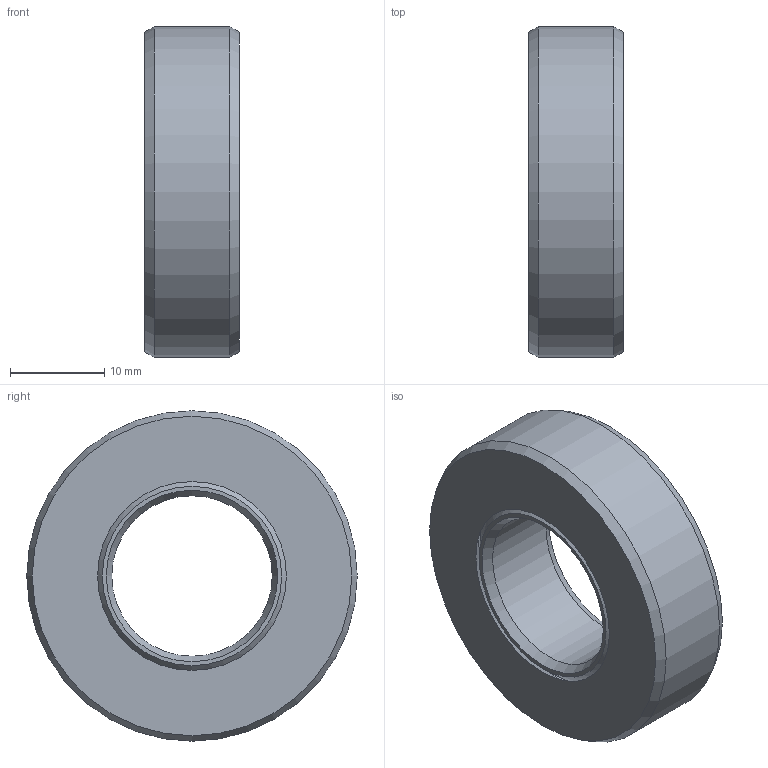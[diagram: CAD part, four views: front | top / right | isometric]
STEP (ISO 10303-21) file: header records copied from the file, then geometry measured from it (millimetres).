
FILE_DESCRIPTION(/* description */ (''),/* implementation_level */ '2;1');
FILE_NAME(/* name */ '301767 SA 17x35x10.stp',/* time_stamp */ '2016-12-16T15:49:46+01:00',/* author */ (''),/* organization */ (''),/* preprocessor_version */ 'ST-DEVELOPER v15',/* originating_system */ 'SIEMENS PLM Software NX 8.5',/* authorisation */ '');
FILE_SCHEMA (('CONFIG_CONTROL_DESIGN'));
Length unit declared in the file: millimetre
Products named in the file (1): ATE0000144_01
Bounding box: 10 x 35 x 35 mm (x, y, z)
Volume: 6812.2 mm3; surface area: 4781.1 mm2
Topology: 2 solids, 2 shells, 18 faces, 37 edges, 23 vertices
Faces by surface type: cone 10, plane 5, cylinder 3
Full cylindrical faces by diameter (mm): 17 x1, 35 x1
Entity records: 492 total; most frequent: DIRECTION 76, CARTESIAN_POINT 74, ORIENTED_EDGE 46, AXIS2_PLACEMENT_3D 38, EDGE_LOOP 33, FACE_BOUND 30, EDGE_CURVE 23, VERTEX_POINT 20
